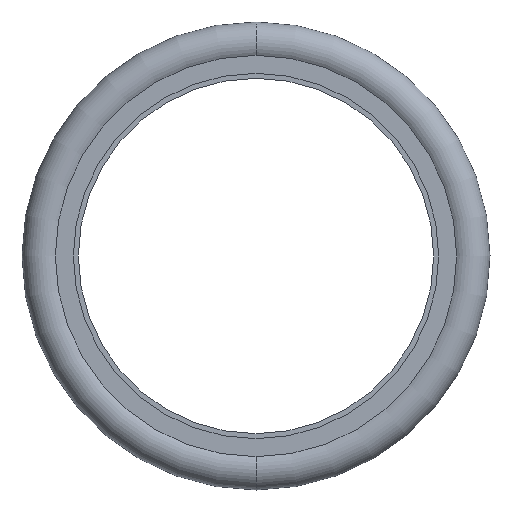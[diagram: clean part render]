
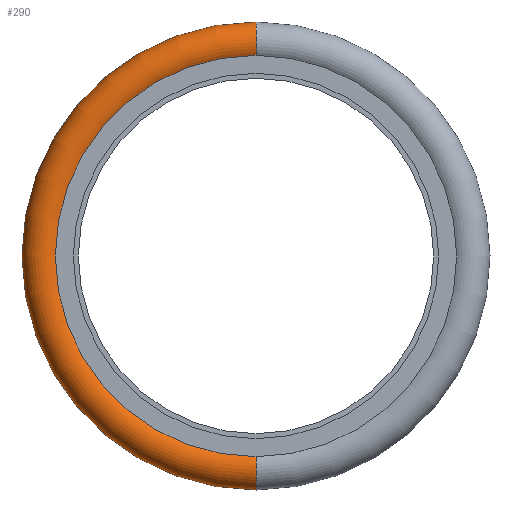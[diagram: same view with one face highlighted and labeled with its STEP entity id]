
A CAD part, front view. The second image highlights one B-rep face of the part: STEP entity #290.
In plain terms, the highlighted toroidal (fillet/blend) face has major radius 23.882 mm and minor radius 2.381 mm.
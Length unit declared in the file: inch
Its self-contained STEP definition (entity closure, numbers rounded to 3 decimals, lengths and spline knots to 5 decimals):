
#131=VERTEX_POINT('',#387);
#132=VERTEX_POINT('',#389);
#133=VERTEX_POINT('',#393);
#134=VERTEX_POINT('',#394);
#151=CIRCLE('',#449,0.88677);
#152=CIRCLE('',#450,0.09375);
#153=CIRCLE('',#451,1.034);
#154=CIRCLE('',#452,0.09375);
#173=EDGE_CURVE('',#133,#134,#151,.T.);
#174=EDGE_CURVE('',#134,#131,#152,.T.);
#175=EDGE_CURVE('',#132,#131,#153,.T.);
#176=EDGE_CURVE('',#133,#132,#154,.T.);
#201=ORIENTED_EDGE('',*,*,#173,.T.);
#202=ORIENTED_EDGE('',*,*,#174,.T.);
#203=ORIENTED_EDGE('',*,*,#175,.F.);
#204=ORIENTED_EDGE('',*,*,#176,.F.);
#254=EDGE_LOOP('',(#201,#202,#203,#204));
#272=FACE_BOUND('',#254,.T.);
#290=ADVANCED_FACE('',(#272),#304,.T.);
#304=TOROIDAL_SURFACE('',#448,0.94025,0.09375);
#320=DIRECTION('',(0.,1.,0.));
#321=DIRECTION('',(0.,1.,0.));
#322=DIRECTION('',(0.,0.,-0.887));
#323=DIRECTION('',(-1.,0.,0.));
#324=DIRECTION('',(0.,0.,0.094));
#325=DIRECTION('',(0.,1.,0.));
#326=DIRECTION('',(0.,0.,1.034));
#327=DIRECTION('',(1.,0.,0.));
#328=DIRECTION('',(0.,0.,-0.094));
#387=CARTESIAN_POINT('',(0.,0.,1.034));
#389=CARTESIAN_POINT('',(0.,0.,-1.034));
#391=CARTESIAN_POINT('',(0.,0.,0.));
#392=CARTESIAN_POINT('',(0.,-0.077,0.));
#393=CARTESIAN_POINT('',(0.,-0.077,-0.88677));
#394=CARTESIAN_POINT('',(0.,-0.077,0.88677));
#395=CARTESIAN_POINT('',(0.,0.,0.94025));
#396=CARTESIAN_POINT('',(0.,0.,0.));
#397=CARTESIAN_POINT('',(0.,0.,-0.94025));
#448=AXIS2_PLACEMENT_3D('',#391,#320,$);
#449=AXIS2_PLACEMENT_3D('',#392,#321,#322);
#450=AXIS2_PLACEMENT_3D('',#395,#323,#324);
#451=AXIS2_PLACEMENT_3D('',#396,#325,#326);
#452=AXIS2_PLACEMENT_3D('',#397,#327,#328);
